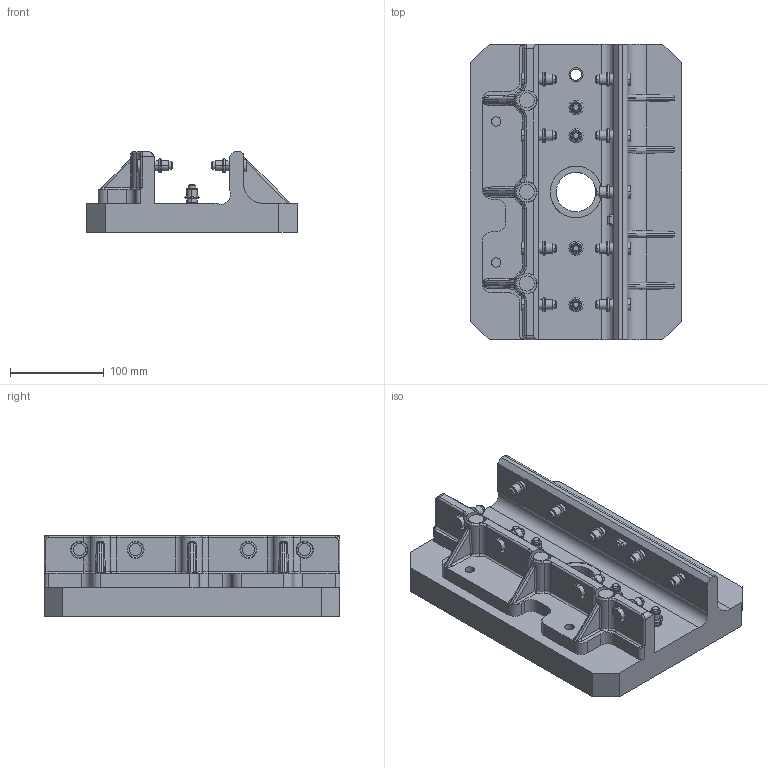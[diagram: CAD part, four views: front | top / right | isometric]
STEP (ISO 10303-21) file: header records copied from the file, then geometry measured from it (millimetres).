
FILE_DESCRIPTION(('STEP AP214'),'1');
FILE_NAME('EGT046_1706180_FLANSCHPLATTE_SW80.CATPart.stp','2015-09-14T13:05:35',('3D-Tool'),(' '),'Spatial InterOp 3D',' ',' ');
FILE_SCHEMA(('automotive_design'));
Length unit declared in the file: millimetre
Products named in the file (23): EGT046_1706180_FLANSCHPLATTE_SW80|PartBody|Add.29; 1; 2; 3; 4; 5; 6; 7; 8; 9; 10; 11; 12; 13; 14; 15; 16; 17; 18; 19; 20; EGT046_1706180_FLANSCHPLATTE_SW80|Buchse|Shaft.35 ( REVO1 ); EGT046_1706180_FLANSCHPLATTE_SW80|Buchse|Shaft.34 ( REVO1 )
Bounding box: 225 x 315 x 86 mm (x, y, z)
Volume: 2840086 mm3; surface area: 337962.7 mm2
Topology: 23 solids, 23 shells, 939 faces, 2087 edges, 1310 vertices
Faces by surface type: cylinder 449, plane 241, cone 128, bspline 61, torus 60
Entity records: 37347 total; most frequent: CARTESIAN_POINT 7953, DIRECTION 4811, ORIENTED_EDGE 4166, EDGE_CURVE 2083, AXIS2_PLACEMENT_3D 2023, VERTEX_POINT 1310, EDGE_LOOP 1113, CIRCLE 1106
